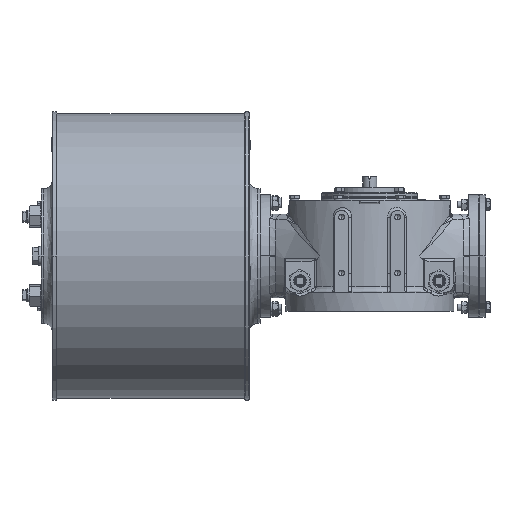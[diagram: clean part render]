
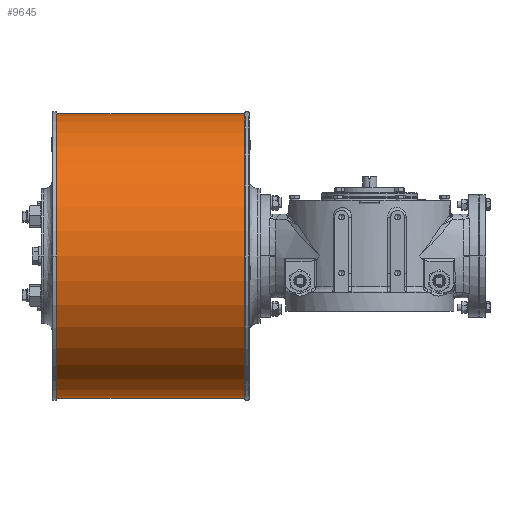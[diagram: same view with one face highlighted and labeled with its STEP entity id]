
A CAD part, front view. The second image highlights one B-rep face of the part: STEP entity #9645.
In plain terms, the highlighted cylindrical face has radius 254 mm (diameter 508 mm), a partial arc.
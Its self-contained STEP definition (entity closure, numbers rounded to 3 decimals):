
#2128 = DIRECTION ( 'NONE',  ( 1., 0., 0. ) ) ;
#5296 = LINE ( 'NONE', #5632, #24804 ) ;
#5632 = CARTESIAN_POINT ( 'NONE',  ( -223., 35.5, -179.5 ) ) ;
#6927 = CYLINDRICAL_SURFACE ( 'NONE', #20383, 254. ) ;
#7265 = DIRECTION ( 'NONE',  ( 0., 0., 1. ) ) ;
#9645 = ADVANCED_FACE ( 'NONE', ( #22159 ), #6927, .T. ) ;
#11787 = EDGE_CURVE ( 'NONE', #31707, #12230, #5296, .T. ) ;
#12230 = VERTEX_POINT ( 'NONE', #32263 ) ;
#15399 = AXIS2_PLACEMENT_3D ( 'NONE', #15613, #45732, #57244 ) ;
#15613 = CARTESIAN_POINT ( 'NONE',  ( -223., 35.5, 74.5 ) ) ;
#18739 = LINE ( 'NONE', #19076, #33945 ) ;
#19076 = CARTESIAN_POINT ( 'NONE',  ( -223., 35.5, 328.5 ) ) ;
#20383 = AXIS2_PLACEMENT_3D ( 'NONE', #52314, #47557, #7265 ) ;
#22159 = FACE_OUTER_BOUND ( 'NONE', #53292, .T. ) ;
#22878 = VERTEX_POINT ( 'NONE', #44991 ) ;
#23247 = EDGE_CURVE ( 'NONE', #39278, #12230, #29445, .T. ) ;
#23512 = EDGE_CURVE ( 'NONE', #31707, #22878, #57568, .T. ) ;
#24142 = DIRECTION ( 'NONE',  ( -1., 0., 0. ) ) ;
#24690 = ORIENTED_EDGE ( 'NONE', *, *, #23247, .T. ) ;
#24790 = ORIENTED_EDGE ( 'NONE', *, *, #34431, .T. ) ;
#24804 = VECTOR ( 'NONE', #31679, 1000. ) ;
#29445 = CIRCLE ( 'NONE', #61860, 254. ) ;
#31618 = ORIENTED_EDGE ( 'NONE', *, *, #23512, .T. ) ;
#31679 = DIRECTION ( 'NONE',  ( -1., 0., 0. ) ) ;
#31707 = VERTEX_POINT ( 'NONE', #49058 ) ;
#32263 = CARTESIAN_POINT ( 'NONE',  ( -558., 35.5, -179.5 ) ) ;
#33945 = VECTOR ( 'NONE', #24142, 1000. ) ;
#34431 = EDGE_CURVE ( 'NONE', #22878, #39278, #18739, .T. ) ;
#39278 = VERTEX_POINT ( 'NONE', #44902 ) ;
#44902 = CARTESIAN_POINT ( 'NONE',  ( -558., 35.5, 328.5 ) ) ;
#44991 = CARTESIAN_POINT ( 'NONE',  ( -223., 35.5, 328.5 ) ) ;
#45732 = DIRECTION ( 'NONE',  ( -1., 0., 0. ) ) ;
#47557 = DIRECTION ( 'NONE',  ( -1., 0., 0. ) ) ;
#48498 = CARTESIAN_POINT ( 'NONE',  ( -558., 35.5, 74.5 ) ) ;
#49058 = CARTESIAN_POINT ( 'NONE',  ( -223., 35.5, -179.5 ) ) ;
#52314 = CARTESIAN_POINT ( 'NONE',  ( -223., 35.5, 74.5 ) ) ;
#53292 = EDGE_LOOP ( 'NONE', ( #64258, #31618, #24790, #24690 ) ) ;
#53926 = DIRECTION ( 'NONE',  ( 0., 0., 1. ) ) ;
#57244 = DIRECTION ( 'NONE',  ( 0., 0., 1. ) ) ;
#57568 = CIRCLE ( 'NONE', #15399, 254. ) ;
#61860 = AXIS2_PLACEMENT_3D ( 'NONE', #48498, #2128, #53926 ) ;
#64258 = ORIENTED_EDGE ( 'NONE', *, *, #11787, .F. ) ;
